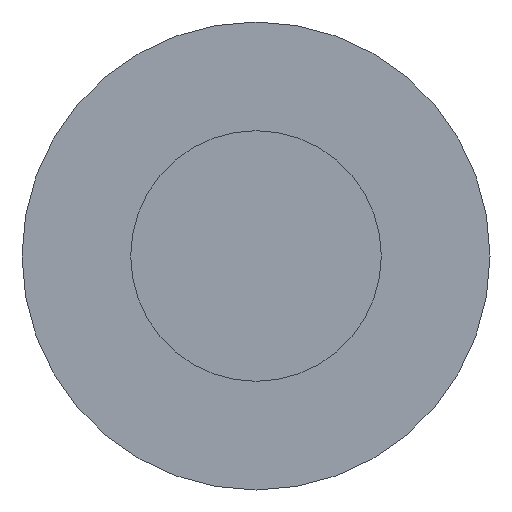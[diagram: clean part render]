
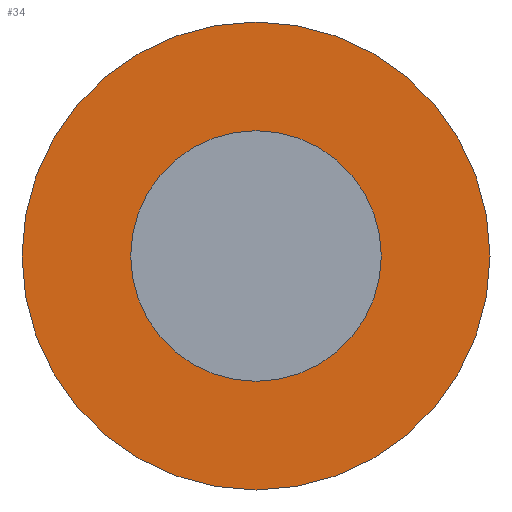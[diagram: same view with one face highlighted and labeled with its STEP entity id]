
A CAD part, front view. The second image highlights one B-rep face of the part: STEP entity #34.
In plain terms, the highlighted planar face has unit normal (0, -1, 0).
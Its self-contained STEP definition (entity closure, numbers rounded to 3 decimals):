
#4 = DIRECTION ( 'NONE',  ( 0., -1., 0. ) ) ;
#18 = AXIS2_PLACEMENT_3D ( 'NONE', #116, #277, #154 ) ;
#22 = CARTESIAN_POINT ( 'NONE',  ( 0., -0.6, 0. ) ) ;
#29 = DIRECTION ( 'NONE',  ( 0., 0., -1. ) ) ;
#31 = VERTEX_POINT ( 'NONE', #109 ) ;
#34 = ADVANCED_FACE ( 'NONE', ( #225, #93 ), #64, .F. ) ;
#39 = EDGE_LOOP ( 'NONE', ( #198, #135 ) ) ;
#58 = CARTESIAN_POINT ( 'NONE',  ( 0., -0.6, 0. ) ) ;
#60 = CARTESIAN_POINT ( 'NONE',  ( 0., -0.6, 3.5 ) ) ;
#64 = PLANE ( 'NONE',  #18 ) ;
#90 = CARTESIAN_POINT ( 'NONE',  ( 0., -0.6, 1.875 ) ) ;
#91 = VERTEX_POINT ( 'NONE', #90 ) ;
#93 = FACE_OUTER_BOUND ( 'NONE', #39, .T. ) ;
#98 = EDGE_CURVE ( 'NONE', #173, #31, #275, .T. ) ;
#99 = ORIENTED_EDGE ( 'NONE', *, *, #243, .F. ) ;
#106 = DIRECTION ( 'NONE',  ( 0., -1., 0. ) ) ;
#109 = CARTESIAN_POINT ( 'NONE',  ( 0., -0.6, -3.5 ) ) ;
#113 = DIRECTION ( 'NONE',  ( 0., -1., 0. ) ) ;
#116 = CARTESIAN_POINT ( 'NONE',  ( 0., -0.6, 3.5 ) ) ;
#121 = EDGE_CURVE ( 'NONE', #91, #180, #199, .T. ) ;
#135 = ORIENTED_EDGE ( 'NONE', *, *, #98, .T. ) ;
#150 = DIRECTION ( 'NONE',  ( 0., 0., -1. ) ) ;
#154 = DIRECTION ( 'NONE',  ( 0., 0., 1. ) ) ;
#163 = AXIS2_PLACEMENT_3D ( 'NONE', #206, #106, #256 ) ;
#173 = VERTEX_POINT ( 'NONE', #60 ) ;
#180 = VERTEX_POINT ( 'NONE', #320 ) ;
#198 = ORIENTED_EDGE ( 'NONE', *, *, #234, .T. ) ;
#199 = CIRCLE ( 'NONE', #270, 1.875 ) ;
#203 = CIRCLE ( 'NONE', #328, 1.875 ) ;
#206 = CARTESIAN_POINT ( 'NONE',  ( 0., -0.6, 0. ) ) ;
#225 = FACE_BOUND ( 'NONE', #292, .T. ) ;
#234 = EDGE_CURVE ( 'NONE', #31, #173, #332, .T. ) ;
#243 = EDGE_CURVE ( 'NONE', #180, #91, #203, .T. ) ;
#252 = CARTESIAN_POINT ( 'NONE',  ( 0., -0.6, 0. ) ) ;
#256 = DIRECTION ( 'NONE',  ( 0., 0., -1. ) ) ;
#265 = DIRECTION ( 'NONE',  ( 0., -1., 0. ) ) ;
#270 = AXIS2_PLACEMENT_3D ( 'NONE', #252, #265, #313 ) ;
#275 = CIRCLE ( 'NONE', #319, 3.5 ) ;
#277 = DIRECTION ( 'NONE',  ( 0., 1., 0. ) ) ;
#287 = ORIENTED_EDGE ( 'NONE', *, *, #121, .F. ) ;
#292 = EDGE_LOOP ( 'NONE', ( #99, #287 ) ) ;
#313 = DIRECTION ( 'NONE',  ( 0., 0., -1. ) ) ;
#319 = AXIS2_PLACEMENT_3D ( 'NONE', #22, #113, #150 ) ;
#320 = CARTESIAN_POINT ( 'NONE',  ( 0., -0.6, -1.875 ) ) ;
#328 = AXIS2_PLACEMENT_3D ( 'NONE', #58, #4, #29 ) ;
#332 = CIRCLE ( 'NONE', #163, 3.5 ) ;
